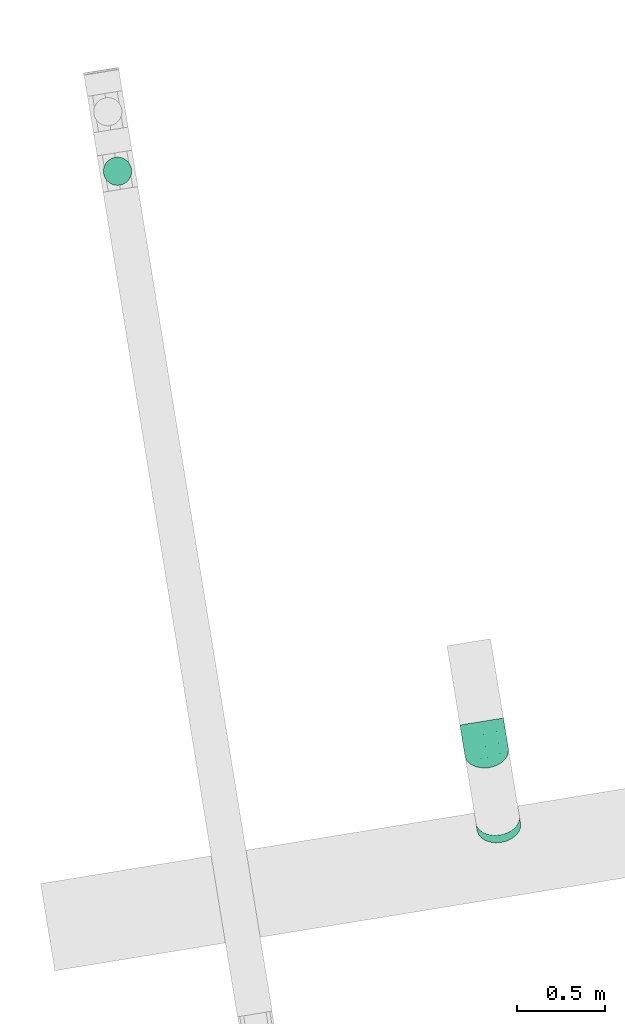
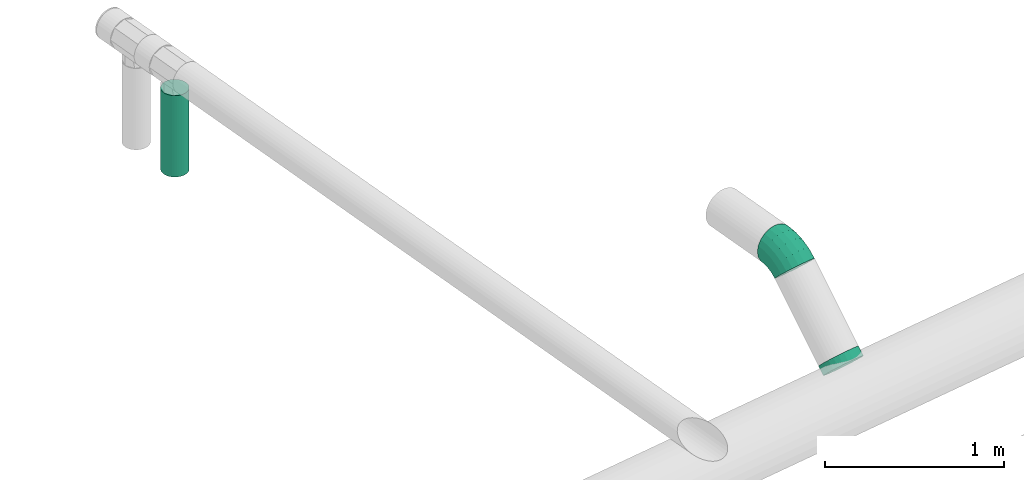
# One storey, part 11 of 19: 2 flow fittings, 1 flow segment.
"""IFC2X3 building model written with IfcOpenShell, lengths in millimetres."""

from ifc_helpers import new_model, entity, si_unit, converted_unit, derived_unit, direction, frame, origin, origin_with_axes, place, context, subcontext, project, spatial, faceted_brep, source, transform, mapped, material, type_object, element, save


model = new_model("IFC2X3")

# Units and contexts
model_context = context("Model", 3, precision=0.01, world=origin(), true_north=direction((6.12323399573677e-17, 1.0)))
plan_context = context("Plan", 3, precision=1e-05, world=origin_with_axes())
body_context = subcontext(model_context, "Body", "Model", "MODEL_VIEW")
ifc_project = project(units=[converted_unit("PLANEANGLEUNIT", "DEGREE", entity("IfcPositiveLengthMeasure", 0.0174532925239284), si_unit("PLANEANGLEUNIT", "RADIAN"), dimensions=[0, 0, 0, 0, 0, 0, 0]), si_unit("AREAUNIT", "SQUARE_METRE"), si_unit("LENGTHUNIT", "METRE", prefix="MILLI"), si_unit("MASSUNIT", "GRAM", prefix="KILO"), si_unit("POWERUNIT", "WATT"), si_unit("PRESSUREUNIT", "PASCAL", prefix="KILO"), si_unit("FORCEUNIT", "NEWTON", prefix="KILO"), si_unit("ELECTRICVOLTAGEUNIT", "VOLT"), si_unit("ELECTRICCURRENTUNIT", "AMPERE"), si_unit("THERMODYNAMICTEMPERATUREUNIT", "DEGREE_CELSIUS"), si_unit("TIMEUNIT", "SECOND"), si_unit("VOLUMEUNIT", "CUBIC_METRE"), derived_unit("LINEARVELOCITYUNIT", [(si_unit("LENGTHUNIT", "METRE"), 1), (si_unit("TIMEUNIT", "SECOND"), -1)]), derived_unit("VOLUMETRICFLOWRATEUNIT", [(si_unit("VOLUMEUNIT", "CUBIC_METRE"), 1), (si_unit("TIMEUNIT", "SECOND"), -1)]), derived_unit("THERMALTRANSMITTANCEUNIT", [(si_unit("POWERUNIT", "WATT"), 1), (si_unit("THERMODYNAMICTEMPERATUREUNIT", "KELVIN"), -1), (si_unit("AREAUNIT", "SQUARE_METRE"), -1)]), derived_unit("SOUNDPRESSUREUNIT", [(si_unit("PRESSUREUNIT", "PASCAL"), 1)])], contexts=[model_context, plan_context])

# Site, building, storey
site_placement = place(None, frame((5.09380697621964e-08, 5.80416781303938e-08, 0.0), z_axis=(0.0, 0.0, 1.0), x_axis=(-0.160806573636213, 0.986985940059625, 0.0)))
site = spatial("IfcSite", under=ifc_project, at=site_placement, Name="Default", CompositionType="ELEMENT")
building_placement = place(site_placement, frame((0.0, 0.0, 0.0), z_axis=(0.0, 0.0, 1.0), x_axis=(1.0, -2.77555756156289e-17, 0.0)))
building = spatial("IfcBuilding", under=site, at=building_placement, Name="Bygning (endres i Project Information)", CompositionType="ELEMENT")
storey_placement = place(building_placement, frame((0.0, 0.0, 51360.0000000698), z_axis=(0.0, 0.0, 1.0), x_axis=(1.0, -2.77555756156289e-17, 0.0)))
storey = spatial("IfcBuildingStorey", under=building, at=storey_placement, Name="H01-Nivå D+0,36", CompositionType="ELEMENT", Elevation=51360.0000000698)

# Flow fittings
ifc_material = material(Name="3601.001 Tilluft")
duct_fitting_type_1 = type_object("IfcDuctFittingType", Name="magicirc_elbow_full_radius_NOR:magicirc_elbow_full_radius_NOR", PredefinedType="NOTDEFINED", material=ifc_material)
shared_shape_1 = source(origin(), body_context, "Body", "Brep", [
    faceted_brep([(-30.3945198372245, -117.794480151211, 0.0), (-31.5880698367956, -111.79409910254, 38.627124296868), (-103.553390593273, -118.882064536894, 38.627124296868), (-103.553390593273, -125.0, 0.0), (-35.0518868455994, -94.3803150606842, 73.4731565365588), (-103.553390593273, -101.127124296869, 73.4731565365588), (-40.4469083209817, -67.2577105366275, 101.127124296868), (-103.553390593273, -73.4731565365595, 101.127124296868), (-47.2450319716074, -33.0812350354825, 118.882064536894), (-103.553390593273, -38.6271242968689, 118.882064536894), (-54.7808100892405, 4.80367989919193, 125.0), (-103.553390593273, 0.0, 125.0), (-62.3165882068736, 42.6885948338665, 118.882064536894), (-103.553390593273, 38.6271242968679, 118.882064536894), (-69.1147118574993, 76.8650703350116, 101.127124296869), (-103.553390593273, 73.4731565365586, 101.127124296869), (-74.5097333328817, 103.987674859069, 73.4731565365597), (-103.553390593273, 101.127124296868, 73.4731565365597), (-77.9735503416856, 121.401458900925, 38.6271242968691), (-103.553390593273, 118.882064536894, 38.6271242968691), (-79.1671003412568, 127.401839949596, 0.0), (-103.553390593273, 125.0, 0.0), (-77.9735503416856, 121.401458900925, -38.6271242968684), (-103.553390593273, 118.882064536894, -38.6271242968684), (-74.5097333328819, 103.987674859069, -73.4731565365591), (-103.553390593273, 101.127124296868, -73.4731565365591), (-69.1147118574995, 76.8650703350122, -101.127124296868), (-103.553390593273, 73.4731565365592, -101.127124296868), (-62.3165882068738, 42.6885948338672, -118.882064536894), (-103.553390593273, 38.6271242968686, -118.882064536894), (-54.7808100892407, 4.80367989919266, -125.0), (-103.553390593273, 0.0, -125.0), (-47.2450319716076, -33.0812350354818, -118.882064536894), (-103.553390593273, -38.6271242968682, -118.882064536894), (-40.4469083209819, -67.2577105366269, -101.127124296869), (-103.553390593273, -73.4731565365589, -101.127124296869), (-35.0518868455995, -94.3803150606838, -73.4731565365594), (-103.553390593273, -101.127124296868, -73.4731565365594), (-31.5880698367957, -111.79409910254, -38.6271242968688), (-103.553390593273, -118.882064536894, -38.6271242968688), (39.9528965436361, -96.4548246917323, 0.0), (37.6116640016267, -90.802589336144, 38.627124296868), (30.8171425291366, -74.3991634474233, 73.4731565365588), (20.2344272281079, -48.8502286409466, 101.127124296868), (6.89942800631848, -16.656692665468, 118.882064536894), (-7.88253250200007, 19.030116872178, 125.0), (-22.6644930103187, 54.7169264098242, 118.882064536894), (-35.9994922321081, 86.9104623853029, 101.127124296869), (-46.5822075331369, 112.45939719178, 73.4731565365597), (-53.3767290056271, 128.862823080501, 38.6271242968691), (-55.7179615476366, 134.515058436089, 0.0), (-53.3767290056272, 128.862823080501, -38.6271242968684), (-46.5822075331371, 112.45939719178, -73.4731565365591), (-35.9994922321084, 86.9104623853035, -101.127124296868), (-22.6644930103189, 54.7169264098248, -118.882064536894), (-7.88253250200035, 19.0301168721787, -125.0), (6.89942800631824, -16.6566926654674, -118.882064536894), (20.2344272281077, -48.8502286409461, -101.127124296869), (30.8171425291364, -74.3991634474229, -73.4731565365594), (37.6116640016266, -90.8025893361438, -38.6271242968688), (104.785446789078, -61.8011046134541, 0.0), (101.386503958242, -56.7142271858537, 38.627124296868), (91.5223876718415, -41.9515339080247, 73.4731565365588), (76.1586663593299, -18.9581000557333, 101.127124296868), (56.7992481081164, 10.0153168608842, 118.882064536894), (35.3391676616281, 42.1325969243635, 125.0), (13.8790872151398, 74.2498769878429, 118.882064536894), (-5.48033103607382, 103.223293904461, 101.127124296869), (-20.8440523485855, 126.216727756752, 73.4731565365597), (-30.7081686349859, 140.979421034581, 38.6271242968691), (-34.1071114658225, 146.066298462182, 0.0), (-30.708168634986, 140.979421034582, -38.6271242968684), (-20.8440523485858, 126.216727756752, -73.4731565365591), (-5.48033103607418, 103.223293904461, -101.127124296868), (13.8790872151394, 74.2498769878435, -118.882064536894), (35.3391676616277, 42.1325969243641, -125.0), (56.799248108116, 10.0153168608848, -118.882064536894), (76.1586663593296, -18.9581000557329, -101.127124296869), (91.5223876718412, -41.9515339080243, -73.4731565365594), (101.386503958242, -56.7142271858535, -38.6271242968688), (161.611652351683, -15.1650429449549, 0.0), (157.285618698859, -10.8390092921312, 38.627124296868), (144.730980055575, 1.71562935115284, 73.4731565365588), (125.176671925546, 21.2699374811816, 101.127124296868), (100.536806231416, 45.9098031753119, 118.882064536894), (73.2233047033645, 73.2233047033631, 125.0), (45.9098031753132, 100.536806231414, 118.882064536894), (21.2699374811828, 125.176671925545, 101.127124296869), (1.71562935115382, 144.730980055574, 73.4731565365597), (-10.8390092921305, 157.285618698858, 38.6271242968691), (-15.1650429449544, 161.611652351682, 0.0), (-10.8390092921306, 157.285618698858, -38.6271242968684), (1.71562935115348, 144.730980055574, -73.4731565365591), (21.2699374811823, 125.176671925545, -101.127124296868), (45.9098031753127, 100.536806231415, -118.882064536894), (73.223304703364, 73.2233047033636, -125.0), (100.536806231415, 45.9098031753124, -118.882064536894), (125.176671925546, 21.269937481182, -101.127124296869), (144.730980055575, 1.71562935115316, -73.4731565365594), (157.285618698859, -10.839009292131, -38.6271242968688)], [[[0, 1, 2, 3]], [[1, 4, 5, 2]], [[4, 6, 7, 5]], [[6, 8, 9, 7]], [[8, 10, 11, 9]], [[10, 12, 13, 11]], [[12, 14, 15, 13]], [[14, 16, 17, 15]], [[16, 18, 19, 17]], [[18, 20, 21, 19]], [[20, 22, 23, 21]], [[22, 24, 25, 23]], [[24, 26, 27, 25]], [[26, 28, 29, 27]], [[28, 30, 31, 29]], [[30, 32, 33, 31]], [[32, 34, 35, 33]], [[34, 36, 37, 35]], [[36, 38, 39, 37]], [[38, 0, 3, 39]], [[40, 41, 1, 0]], [[41, 42, 4, 1]], [[42, 43, 6, 4]], [[43, 44, 8, 6]], [[44, 45, 10, 8]], [[45, 46, 12, 10]], [[46, 47, 14, 12]], [[47, 48, 16, 14]], [[48, 49, 18, 16]], [[49, 50, 20, 18]], [[50, 51, 22, 20]], [[51, 52, 24, 22]], [[52, 53, 26, 24]], [[53, 54, 28, 26]], [[54, 55, 30, 28]], [[55, 56, 32, 30]], [[56, 57, 34, 32]], [[57, 58, 36, 34]], [[58, 59, 38, 36]], [[59, 40, 0, 38]], [[60, 61, 41, 40]], [[61, 62, 42, 41]], [[62, 63, 43, 42]], [[63, 64, 44, 43]], [[64, 65, 45, 44]], [[65, 66, 46, 45]], [[66, 67, 47, 46]], [[67, 68, 48, 47]], [[68, 69, 49, 48]], [[69, 70, 50, 49]], [[70, 71, 51, 50]], [[71, 72, 52, 51]], [[72, 73, 53, 52]], [[73, 74, 54, 53]], [[74, 75, 55, 54]], [[75, 76, 56, 55]], [[76, 77, 57, 56]], [[77, 78, 58, 57]], [[78, 79, 59, 58]], [[79, 60, 40, 59]], [[80, 81, 61, 60]], [[81, 82, 62, 61]], [[82, 83, 63, 62]], [[83, 84, 64, 63]], [[84, 85, 65, 64]], [[85, 86, 66, 65]], [[86, 87, 67, 66]], [[87, 88, 68, 67]], [[88, 89, 69, 68]], [[89, 90, 70, 69]], [[90, 91, 71, 70]], [[91, 92, 72, 71]], [[92, 93, 73, 72]], [[93, 94, 74, 73]], [[94, 95, 75, 74]], [[95, 96, 76, 75]], [[96, 97, 77, 76]], [[97, 98, 78, 77]], [[98, 99, 79, 78]], [[99, 80, 60, 79]], [[3, 2, 5, 7, 9, 11, 13, 15, 17, 19, 21, 23, 25, 27, 29, 31, 33, 35, 37, 39]], [[99, 98, 97, 96, 95, 94, 93, 92, 91, 90, 89, 88, 87, 86, 85, 84, 83, 82, 81, 80]]]),
])
flow_fitting_1_placement = place(storey_placement, frame((996486.544472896, -386670.237695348, 3800.0), z_axis=(-2.77555756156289e-17, -1.0, 0.0), x_axis=(-1.0, 2.77555756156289e-17, 0.0)))
element("IfcFlowFitting", 1, at=flow_fitting_1_placement, inside=storey, type_object=duct_fitting_type_1, material=ifc_material, Name="magicirc_elbow_full_radius_NOR:magicirc_elbow_full_radius_NOR", ObjectType="magicirc_elbow_full_radius_NOR:magicirc_elbow_full_radius_NOR", context=body_context, shape_type="MappedRepresentation", body=[
    mapped(shared_shape_1, transform((0.0, 0.0, 0.0), scale=1.0)),
])
duct_fitting_type_2 = type_object("IfcDuctFittingType", Name="magicirc_tapoutlet_001:magicirc_tapoutlet_001", PredefinedType="NOTDEFINED", material=ifc_material)
shared_shape_2 = source(origin(), body_context, "Body", "Brep", [
    faceted_brep([(-40.699171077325, 0.0, -125.000000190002), (-40.699171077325, -32.352380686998, -120.740728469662), (-40.699171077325, -62.500000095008, -108.253175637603), (-40.699171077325, -88.3883477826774, -88.3883477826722), (-40.699171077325, -108.253175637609, -62.5000000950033), (-40.699171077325, -120.740728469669, -32.3523806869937), (-40.699171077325, -125.000000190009, 0.0), (-40.699171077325, -120.740728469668, 32.3523806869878), (-40.699171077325, -108.253175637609, 62.5000000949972), (-40.699171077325, -88.3883477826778, 88.388347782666), (-40.699171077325, -62.5000000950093, 108.253175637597), (-40.699171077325, -32.3523806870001, 120.740728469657), (-40.699171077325, 0.0, 125.000000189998), (-40.699171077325, 32.3523806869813, 120.740728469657), (-40.699171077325, 62.5000000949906, 108.253175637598), (-40.699171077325, 88.3883477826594, 88.3883477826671), (-40.699171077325, 108.25317563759, 62.5000000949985), (-40.699171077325, 120.74072846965, 32.3523806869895), (-40.699171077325, 125.000000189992, 0.0), (-40.699171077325, 120.740728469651, -32.3523806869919), (-40.699171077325, 108.253175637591, -62.5000000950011), (-40.699171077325, 88.3883477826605, -88.3883477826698), (-40.699171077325, 62.5000000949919, -108.253175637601), (-40.699171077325, 32.3523806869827, -120.74072846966), (0.0, 0.0, 125.000000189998), (20.0, 0.0, 125.000000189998), (20.0, 32.3523806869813, 120.740728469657), (0.0, 32.3523806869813, 120.740728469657), (20.0, 62.5000000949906, 108.253175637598), (0.0, 62.5000000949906, 108.253175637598), (20.0, 88.3883477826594, 88.3883477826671), (0.0, 88.3883477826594, 88.3883477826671), (0.0, 108.25317563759, 62.5000000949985), (20.0, 108.25317563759, 62.5000000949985), (20.0, 120.74072846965, 32.3523806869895), (0.0, 120.74072846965, 32.3523806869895), (20.0, 125.000000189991, 0.0), (0.0, 125.000000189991, 0.0), (20.0, 120.740728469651, -32.3523806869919), (0.0, 120.740728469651, -32.3523806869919), (20.0, 108.253175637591, -62.5000000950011), (0.0, 108.253175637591, -62.5000000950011), (20.0, 88.3883477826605, -88.3883477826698), (0.0, 88.3883477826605, -88.3883477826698), (0.0, 32.3523806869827, -120.74072846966), (20.0, 32.3523806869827, -120.74072846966), (20.0, 0.0, -125.000000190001), (0.0, 0.0, -125.000000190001), (0.0, 62.5000000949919, -108.253175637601), (20.0, 62.5000000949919, -108.253175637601), (20.0, -32.352380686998, -120.740728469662), (0.0, -32.352380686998, -120.740728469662), (20.0, -62.500000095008, -108.253175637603), (0.0, -62.500000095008, -108.253175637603), (20.0, -88.3883477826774, -88.3883477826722), (0.0, -88.3883477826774, -88.3883477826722), (0.0, -108.253175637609, -62.5000000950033), (20.0, -108.253175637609, -62.5000000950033), (20.0, -120.740728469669, -32.3523806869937), (0.0, -120.740728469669, -32.3523806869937), (20.0, -125.00000019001, 0.0), (0.0, -125.00000019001, 0.0), (20.0, -120.740728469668, 32.3523806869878), (0.0, -120.740728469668, 32.3523806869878), (20.0, -108.253175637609, 62.5000000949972), (0.0, -108.253175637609, 62.5000000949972), (20.0, -88.3883477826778, 88.388347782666), (0.0, -88.3883477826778, 88.388347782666), (0.0, -62.5000000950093, 108.253175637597), (20.0, -62.5000000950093, 108.253175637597), (20.0, -32.3523806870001, 120.740728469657), (0.0, -32.3523806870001, 120.740728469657)], [[[0, 1, 2, 3, 4, 5, 6, 7, 8, 9, 10, 11, 12, 13, 14, 15, 16, 17, 18, 19, 20, 21, 22, 23]], [[12, 24, 25, 26, 27, 13]], [[13, 27, 26, 28, 29, 14]], [[14, 29, 28, 30, 31, 15]], [[16, 32, 33, 34, 35, 17]], [[17, 35, 34, 36, 37, 18]], [[15, 31, 30, 33, 32, 16]], [[18, 37, 36, 38, 39, 19]], [[19, 39, 38, 40, 41, 20]], [[20, 41, 40, 42, 43, 21]], [[44, 45, 46, 47, 0, 23]], [[48, 49, 45, 44, 23, 22]], [[21, 43, 42, 49, 48, 22]], [[0, 47, 46, 50, 51, 1]], [[1, 51, 50, 52, 53, 2]], [[2, 53, 52, 54, 55, 3]], [[4, 56, 57, 58, 59, 5]], [[5, 59, 58, 60, 61, 6]], [[3, 55, 54, 57, 56, 4]], [[6, 61, 60, 62, 63, 7]], [[7, 63, 62, 64, 65, 8]], [[8, 65, 64, 66, 67, 9]], [[10, 68, 69, 70, 71, 11]], [[11, 71, 70, 25, 24, 12]], [[9, 67, 66, 69, 68, 10]], [[45, 49, 42, 40, 38, 36, 34, 33, 30, 28, 26, 25, 70, 69, 66, 64, 62, 60, 58, 57, 54, 52, 50, 46]]]),
    faceted_brep([(20.0, 32.3523806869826, -120.74072846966), (20.0, 62.5000000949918, -108.253175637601), (20.0, 88.3883477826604, -88.3883477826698), (20.0, 108.253175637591, -62.5000000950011), (20.0, 120.740728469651, -32.3523806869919), (20.0, 125.000000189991, 0.0), (20.0, 120.74072846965, 32.3523806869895), (20.0, 108.25317563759, 62.5000000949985), (20.0, 88.3883477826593, 88.3883477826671), (20.0, 62.5000000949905, 108.253175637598), (20.0, 32.3523806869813, 120.740728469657), (20.0, 0.0, 125.000000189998), (20.0, -32.3523806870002, 120.740728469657), (20.0, -62.5000000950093, 108.253175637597), (20.0, -88.3883477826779, 88.388347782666), (20.0, -108.253175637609, 62.5000000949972), (20.0, -120.740728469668, 32.3523806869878), (20.0, -125.00000019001, 0.0), (20.0, -120.740728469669, -32.3523806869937), (20.0, -108.253175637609, -62.5000000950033), (20.0, -88.3883477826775, -88.3883477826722), (20.0, -62.500000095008, -108.253175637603), (20.0, -32.352380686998, -120.740728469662), (20.0, 0.0, -125.000000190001), (0.0, 0.0, 125.000000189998), (0.0, 32.3523806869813, 120.740728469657), (-40.6991710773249, 32.352380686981, 120.740728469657), (-40.699171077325, 0.0, 125.000000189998), (0.0, 62.5000000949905, 108.253175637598), (-40.6991710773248, 62.5000000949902, 108.253175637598), (0.0, 88.3883477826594, 88.3883477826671), (-40.6991710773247, 88.388347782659, 88.3883477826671), (0.0, 108.25317563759, 62.5000000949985), (0.0, 120.74072846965, 32.3523806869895), (-40.6991710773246, 120.74072846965, 32.3523806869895), (-40.6991710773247, 108.25317563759, 62.5000000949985), (0.0, 125.000000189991, 0.0), (-40.6991710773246, 125.000000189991, 0.0), (0.0, 120.740728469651, -32.3523806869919), (-40.6991710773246, 120.740728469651, -32.3523806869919), (0.0, 108.253175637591, -62.5000000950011), (-40.6991710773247, 108.253175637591, -62.5000000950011), (0.0, 88.3883477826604, -88.3883477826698), (-40.6991710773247, 88.3883477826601, -88.3883477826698), (0.0, 0.0, -125.000000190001), (-40.699171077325, 0.0, -125.000000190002), (-40.6991710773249, 32.3523806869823, -120.74072846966), (0.0, 32.3523806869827, -120.74072846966), (-40.6991710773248, 62.5000000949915, -108.253175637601), (0.0, 62.5000000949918, -108.253175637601), (0.0, -32.352380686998, -120.740728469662), (-40.6991710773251, -32.3523806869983, -120.740728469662), (0.0, -62.500000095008, -108.253175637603), (-40.6991710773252, -62.5000000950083, -108.253175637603), (0.0, -88.3883477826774, -88.3883477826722), (-40.6991710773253, -88.3883477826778, -88.3883477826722), (0.0, -108.253175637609, -62.5000000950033), (0.0, -120.740728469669, -32.3523806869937), (-40.6991710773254, -120.74072846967, -32.3523806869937), (-40.6991710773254, -108.253175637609, -62.5000000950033), (0.0, -125.00000019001, 0.0), (-40.6991710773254, -125.000000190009, 0.0), (0.0, -120.740728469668, 32.3523806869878), (-40.6991710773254, -120.740728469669, 32.3523806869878), (0.0, -108.253175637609, 62.5000000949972), (-40.6991710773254, -108.253175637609, 62.5000000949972), (0.0, -88.3883477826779, 88.388347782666), (-40.6991710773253, -88.3883477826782, 88.388347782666), (0.0, -62.5000000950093, 108.253175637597), (0.0, -32.3523806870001, 120.740728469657), (-40.6991710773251, -32.3523806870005, 120.740728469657), (-40.6991710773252, -62.5000000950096, 108.253175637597)], [[[0, 1, 2, 3, 4, 5, 6, 7, 8, 9, 10, 11, 12, 13, 14, 15, 16, 17, 18, 19, 20, 21, 22, 23]], [[24, 11, 10, 25, 26, 27]], [[25, 10, 9, 28, 29, 26]], [[28, 9, 8, 30, 31, 29]], [[32, 7, 6, 33, 34, 35]], [[33, 6, 5, 36, 37, 34]], [[30, 8, 7, 32, 35, 31]], [[36, 5, 4, 38, 39, 37]], [[38, 4, 3, 40, 41, 39]], [[40, 3, 2, 42, 43, 41]], [[0, 23, 44, 45, 46, 47]], [[1, 0, 47, 46, 48, 49]], [[42, 2, 1, 49, 48, 43]], [[44, 23, 22, 50, 51, 45]], [[50, 22, 21, 52, 53, 51]], [[52, 21, 20, 54, 55, 53]], [[56, 19, 18, 57, 58, 59]], [[57, 18, 17, 60, 61, 58]], [[54, 20, 19, 56, 59, 55]], [[60, 17, 16, 62, 63, 61]], [[62, 16, 15, 64, 65, 63]], [[64, 15, 14, 66, 67, 65]], [[68, 13, 12, 69, 70, 71]], [[69, 12, 11, 24, 27, 70]], [[66, 14, 13, 68, 71, 67]], [[45, 51, 53, 55, 59, 58, 61, 63, 65, 67, 71, 70, 27, 26, 29, 31, 35, 34, 37, 39, 41, 43, 48, 46]]]),
    faceted_brep([(-40.699171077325, 0.0, -125.000000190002), (-40.699171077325, -32.352380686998, -120.740728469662), (-40.699171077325, -62.500000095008, -108.253175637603), (-40.699171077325, -88.3883477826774, -88.3883477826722), (-40.699171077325, -108.253175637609, -62.5000000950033), (-40.699171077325, -120.740728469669, -32.3523806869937), (-40.699171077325, -125.000000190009, 0.0), (-40.699171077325, -120.740728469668, 32.3523806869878), (-40.699171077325, -108.253175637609, 62.5000000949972), (-40.699171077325, -88.3883477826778, 88.388347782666), (-40.699171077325, -62.5000000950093, 108.253175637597), (-40.699171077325, -32.3523806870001, 120.740728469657), (-40.699171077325, 0.0, 125.000000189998), (-40.699171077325, 32.3523806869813, 120.740728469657), (-40.699171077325, 62.5000000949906, 108.253175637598), (-40.699171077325, 88.3883477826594, 88.3883477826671), (-40.699171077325, 108.25317563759, 62.5000000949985), (-40.699171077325, 120.74072846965, 32.3523806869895), (-40.699171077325, 125.000000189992, 0.0), (-40.699171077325, 120.740728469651, -32.3523806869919), (-40.699171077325, 108.253175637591, -62.5000000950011), (-40.699171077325, 88.3883477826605, -88.3883477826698), (-40.699171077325, 62.5000000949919, -108.253175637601), (-40.699171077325, 32.3523806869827, -120.74072846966), (0.0, 0.0, 125.000000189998), (20.0, 0.0, 125.000000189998), (20.0, 32.3523806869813, 120.740728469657), (0.0, 32.3523806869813, 120.740728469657), (20.0, 62.5000000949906, 108.253175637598), (0.0, 62.5000000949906, 108.253175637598), (20.0, 88.3883477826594, 88.3883477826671), (0.0, 88.3883477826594, 88.3883477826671), (0.0, 108.25317563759, 62.5000000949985), (20.0, 108.25317563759, 62.5000000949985), (20.0, 120.74072846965, 32.3523806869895), (0.0, 120.74072846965, 32.3523806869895), (20.0, 125.000000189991, 0.0), (0.0, 125.000000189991, 0.0), (20.0, 120.740728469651, -32.3523806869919), (0.0, 120.740728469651, -32.3523806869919), (20.0, 108.253175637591, -62.5000000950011), (0.0, 108.253175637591, -62.5000000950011), (20.0, 88.3883477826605, -88.3883477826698), (0.0, 88.3883477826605, -88.3883477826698), (0.0, 32.3523806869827, -120.74072846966), (20.0, 32.3523806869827, -120.74072846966), (20.0, 0.0, -125.000000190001), (0.0, 0.0, -125.000000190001), (0.0, 62.5000000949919, -108.253175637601), (20.0, 62.5000000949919, -108.253175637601), (20.0, -32.352380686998, -120.740728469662), (0.0, -32.352380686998, -120.740728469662), (20.0, -62.500000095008, -108.253175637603), (0.0, -62.500000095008, -108.253175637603), (20.0, -88.3883477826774, -88.3883477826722), (0.0, -88.3883477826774, -88.3883477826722), (0.0, -108.253175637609, -62.5000000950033), (20.0, -108.253175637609, -62.5000000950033), (20.0, -120.740728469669, -32.3523806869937), (0.0, -120.740728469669, -32.3523806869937), (20.0, -125.00000019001, 0.0), (0.0, -125.00000019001, 0.0), (20.0, -120.740728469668, 32.3523806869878), (0.0, -120.740728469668, 32.3523806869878), (20.0, -108.253175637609, 62.5000000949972), (0.0, -108.253175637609, 62.5000000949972), (20.0, -88.3883477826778, 88.388347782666), (0.0, -88.3883477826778, 88.388347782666), (0.0, -62.5000000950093, 108.253175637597), (20.0, -62.5000000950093, 108.253175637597), (20.0, -32.3523806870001, 120.740728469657), (0.0, -32.3523806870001, 120.740728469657)], [[[0, 1, 2, 3, 4, 5, 6, 7, 8, 9, 10, 11, 12, 13, 14, 15, 16, 17, 18, 19, 20, 21, 22, 23]], [[12, 24, 25, 26, 27, 13]], [[13, 27, 26, 28, 29, 14]], [[14, 29, 28, 30, 31, 15]], [[16, 32, 33, 34, 35, 17]], [[17, 35, 34, 36, 37, 18]], [[15, 31, 30, 33, 32, 16]], [[18, 37, 36, 38, 39, 19]], [[19, 39, 38, 40, 41, 20]], [[20, 41, 40, 42, 43, 21]], [[44, 45, 46, 47, 0, 23]], [[48, 49, 45, 44, 23, 22]], [[21, 43, 42, 49, 48, 22]], [[0, 47, 46, 50, 51, 1]], [[1, 51, 50, 52, 53, 2]], [[2, 53, 52, 54, 55, 3]], [[4, 56, 57, 58, 59, 5]], [[5, 59, 58, 60, 61, 6]], [[3, 55, 54, 57, 56, 4]], [[6, 61, 60, 62, 63, 7]], [[7, 63, 62, 64, 65, 8]], [[8, 65, 64, 66, 67, 9]], [[10, 68, 69, 70, 71, 11]], [[11, 71, 70, 25, 24, 12]], [[9, 67, 66, 69, 68, 10]], [[45, 49, 42, 40, 38, 36, 34, 33, 30, 28, 26, 25, 70, 69, 66, 64, 62, 60, 58, 57, 54, 52, 50, 46]]]),
])
flow_fitting_2_placement = place(storey_placement, frame((996011.962019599, -386670.237695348, 3325.41754670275), z_axis=(0.70710678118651, -9.81307786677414e-18, -0.707106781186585), x_axis=(0.707106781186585, 1.38777878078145e-17, 0.70710678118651)))
element("IfcFlowFitting", 2, at=flow_fitting_2_placement, inside=storey, type_object=duct_fitting_type_2, material=ifc_material, Name="magicirc_tapoutlet_001:magicirc_tapoutlet_001", ObjectType="magicirc_tapoutlet_001:magicirc_tapoutlet_001", context=body_context, shape_type="MappedRepresentation", body=[
    mapped(shared_shape_2, transform((0.0, 0.0, 0.0), scale=1.0)),
])

# Flow segment
duct_segment_type = type_object("IfcDuctSegmentType", Name="Round Duct:Sirkulær kanal", PredefinedType="NOTDEFINED", material=ifc_material)
flow_segment_placement = place(storey_placement, frame((0.0, 0.0, 0.0), z_axis=(0.0, 0.0, 1.0), x_axis=(1.0, -2.77555756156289e-17, 0.0)))
element("IfcFlowSegment", 3, at=flow_segment_placement, inside=storey, type_object=duct_segment_type, Name="Round Duct:Sirkulær kanal", ObjectType="Round Duct:Sirkulær kanal", context=body_context, shape_type="Brep", body=[
    faceted_brep([(1000004.89913365, -385212.731779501, 3139.99999993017), (999991.007279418, -385211.51639974, 3139.99999993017), (999991.007279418, -385211.51639974, 3695.00000015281), (1000004.89913365, -385212.731779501, 3695.00000015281), (1000018.79098789, -385211.51639974, 3139.99999993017), (1000018.79098789, -385211.51639974, 3695.00000015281), (1000032.26074516, -385207.907189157, 3139.99999993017), (1000032.26074516, -385207.907189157, 3695.00000015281), (1000044.89913371, -385202.013811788, 3139.99999993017), (1000044.89913371, -385202.013811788, 3695.00000015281), (1000056.32214251, -385194.015334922, 3139.99999993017), (1000056.32214251, -385194.015334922, 3695.00000015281), (1000066.1826892, -385184.154788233, 3139.99999993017), (1000066.1826892, -385184.154788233, 3695.00000015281), (1000074.18116606, -385172.73177944, 3139.99999993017), (1000074.18116606, -385172.73177944, 3695.00000015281), (1000080.07454343, -385160.093390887, 3139.99999993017), (1000080.07454343, -385160.093390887, 3695.00000015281), (1000083.68375401, -385146.623633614, 3139.99999993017), (1000083.68375401, -385146.623633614, 3695.00000015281), (1000084.89913377, -385132.73177938, 3139.99999993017), (1000084.89913377, -385132.73177938, 3695.00000015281), (1000083.68375401, -385118.839925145, 3139.99999993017), (1000083.68375401, -385118.839925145, 3695.00000015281), (1000080.07454343, -385105.370167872, 3139.99999993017), (1000080.07454343, -385105.370167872, 3695.00000015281), (1000074.18116606, -385092.731779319, 3139.99999993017), (1000074.18116606, -385092.731779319, 3695.00000015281), (1000066.1826892, -385081.308770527, 3139.99999993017), (1000066.1826892, -385081.308770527, 3695.00000015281), (1000056.32214251, -385071.448223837, 3139.99999993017), (1000056.32214251, -385071.448223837, 3695.00000015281), (1000044.89913371, -385063.449746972, 3139.99999993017), (1000044.89913371, -385063.449746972, 3695.00000015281), (1000032.26074516, -385057.556369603, 3139.99999993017), (1000032.26074516, -385057.556369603, 3695.00000015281), (1000018.79098789, -385053.947159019, 3139.99999993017), (1000018.79098789, -385053.947159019, 3695.00000015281), (1000004.89913365, -385052.731779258, 3139.99999993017), (1000004.89913365, -385052.731779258, 3695.00000015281), (999991.007279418, -385053.947159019, 3139.99999993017), (999991.007279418, -385053.947159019, 3695.00000015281), (999977.537522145, -385057.556369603, 3139.99999993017), (999977.537522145, -385057.556369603, 3695.00000015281), (999964.899133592, -385063.449746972, 3139.99999993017), (999964.899133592, -385063.449746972, 3695.00000015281), (999953.4761248, -385071.448223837, 3139.99999993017), (999953.4761248, -385071.448223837, 3695.00000015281), (999943.61557811, -385081.308770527, 3139.99999993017), (999943.61557811, -385081.308770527, 3695.00000015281), (999935.617101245, -385092.731779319, 3139.99999993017), (999935.617101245, -385092.731779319, 3695.00000015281), (999929.723723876, -385105.370167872, 3139.99999993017), (999929.723723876, -385105.370167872, 3695.00000015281), (999926.114513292, -385118.839925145, 3139.99999993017), (999926.114513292, -385118.839925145, 3695.00000015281), (999924.899133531, -385132.73177938, 3139.99999993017), (999924.899133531, -385132.73177938, 3695.00000015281), (999926.114513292, -385146.623633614, 3139.99999993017), (999926.114513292, -385146.623633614, 3695.00000015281), (999929.723723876, -385160.093390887, 3139.99999993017), (999929.723723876, -385160.093390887, 3695.00000015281), (999935.617101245, -385172.73177944, 3139.99999993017), (999935.617101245, -385172.73177944, 3695.00000015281), (999943.61557811, -385184.154788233, 3139.99999993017), (999943.61557811, -385184.154788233, 3695.00000015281), (999953.4761248, -385194.015334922, 3139.99999993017), (999953.4761248, -385194.015334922, 3695.00000015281), (999964.899133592, -385202.013811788, 3139.99999993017), (999964.899133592, -385202.013811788, 3695.00000015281), (999977.537522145, -385207.907189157, 3139.99999993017), (999977.537522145, -385207.907189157, 3695.00000015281)], [[[0, 1, 2, 3]], [[4, 0, 3, 5]], [[6, 4, 5, 7]], [[8, 6, 7, 9]], [[10, 8, 9, 11]], [[12, 10, 11, 13]], [[14, 12, 13, 15]], [[16, 14, 15, 17]], [[18, 16, 17, 19]], [[20, 18, 19, 21]], [[22, 20, 21, 23]], [[24, 22, 23, 25]], [[26, 24, 25, 27]], [[28, 26, 27, 29]], [[30, 28, 29, 31]], [[32, 30, 31, 33]], [[34, 32, 33, 35]], [[36, 34, 35, 37]], [[38, 36, 37, 39]], [[40, 38, 39, 41]], [[42, 40, 41, 43]], [[44, 42, 43, 45]], [[46, 44, 45, 47]], [[48, 46, 47, 49]], [[50, 48, 49, 51]], [[52, 50, 51, 53]], [[54, 52, 53, 55]], [[56, 54, 55, 57]], [[58, 56, 57, 59]], [[60, 58, 59, 61]], [[62, 60, 61, 63]], [[64, 62, 63, 65]], [[66, 64, 65, 67]], [[68, 66, 67, 69]], [[70, 68, 69, 71]], [[1, 70, 71, 2]], [[3, 2, 71, 69, 67, 65, 63, 61, 59, 57, 55, 53, 51, 49, 47, 45, 43, 41, 39, 37, 35, 33, 31, 29, 27, 25, 23, 21, 19, 17, 15, 13, 11, 9, 7, 5]], [[4, 6, 8, 10, 12, 14, 16, 18, 20, 22, 24, 26, 28, 30, 32, 34, 36, 38, 40, 42, 44, 46, 48, 50, 52, 54, 56, 58, 60, 62, 64, 66, 68, 70, 1, 0]]], orient=[[False], [False], [False], [False], [False], [False], [False], [False], [False], [False], [False], [False], [False], [False], [False], [False], [False], [False], [False], [False], [False], [False], [False], [False], [False], [False], [False], [False], [False], [False], [False], [False], [False], [False], [False], [False], [False], [False]]),
])

save(model, "model.ifc")
